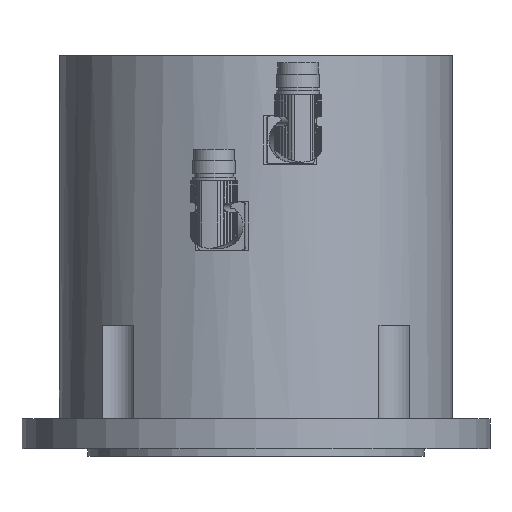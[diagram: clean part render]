
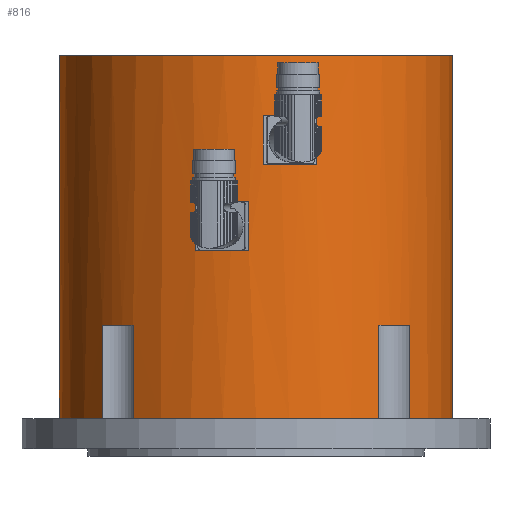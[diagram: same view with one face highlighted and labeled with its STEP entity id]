
A CAD part, left-side view. The second image highlights one B-rep face of the part: STEP entity #816.
In plain terms, the highlighted cylindrical face has radius 105 mm (diameter 210 mm), a full revolution.
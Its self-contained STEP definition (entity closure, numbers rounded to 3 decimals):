
#225=LINE('',#5573,#401);
#226=LINE('',#5575,#402);
#229=LINE('',#5586,#405);
#230=LINE('',#5588,#406);
#232=LINE('',#5594,#408);
#233=LINE('',#5599,#409);
#234=LINE('',#5603,#410);
#235=LINE('',#5607,#411);
#236=LINE('',#5611,#412);
#237=LINE('',#5615,#413);
#238=LINE('',#5619,#414);
#239=LINE('',#5623,#415);
#401=VECTOR('',#4512,1.);
#402=VECTOR('',#4513,1.);
#405=VECTOR('',#4526,1.);
#406=VECTOR('',#4527,1.);
#408=VECTOR('',#4535,1.);
#409=VECTOR('',#4538,1.);
#410=VECTOR('',#4541,1.);
#411=VECTOR('',#4544,1.);
#412=VECTOR('',#4547,1.);
#413=VECTOR('',#4550,1.);
#414=VECTOR('',#4553,1.);
#415=VECTOR('',#4556,1.);
#617=CYLINDRICAL_SURFACE('',#3985,105.);
#816=ADVANCED_FACE('',(#1106,#1107,#1108,#1109),#617,.T.);
#1106=FACE_BOUND('',#1421,.T.);
#1107=FACE_BOUND('',#1422,.T.);
#1108=FACE_BOUND('',#1423,.T.);
#1109=FACE_BOUND('',#1424,.T.);
#1421=EDGE_LOOP('',(#1720,#1721,#1722,#1723,#1724,#1725,#1726,#1727,#1728,
#1729,#1730,#1731,#1732,#1733,#1734,#1735));
#1422=EDGE_LOOP('',(#1736,#1737,#1738,#1739));
#1423=EDGE_LOOP('',(#1740,#1741,#1742,#1743));
#1424=EDGE_LOOP('',(#1744));
#1720=ORIENTED_EDGE('',*,*,#3165,.F.);
#1721=ORIENTED_EDGE('',*,*,#3166,.F.);
#1722=ORIENTED_EDGE('',*,*,#3167,.F.);
#1723=ORIENTED_EDGE('',*,*,#3168,.F.);
#1724=ORIENTED_EDGE('',*,*,#3169,.F.);
#1725=ORIENTED_EDGE('',*,*,#3170,.F.);
#1726=ORIENTED_EDGE('',*,*,#3171,.F.);
#1727=ORIENTED_EDGE('',*,*,#3172,.F.);
#1728=ORIENTED_EDGE('',*,*,#3173,.F.);
#1729=ORIENTED_EDGE('',*,*,#3174,.F.);
#1730=ORIENTED_EDGE('',*,*,#3175,.F.);
#1731=ORIENTED_EDGE('',*,*,#3176,.F.);
#1732=ORIENTED_EDGE('',*,*,#3177,.F.);
#1733=ORIENTED_EDGE('',*,*,#3178,.F.);
#1734=ORIENTED_EDGE('',*,*,#3179,.F.);
#1735=ORIENTED_EDGE('',*,*,#3180,.F.);
#1736=ORIENTED_EDGE('',*,*,#3164,.F.);
#1737=ORIENTED_EDGE('',*,*,#3162,.F.);
#1738=ORIENTED_EDGE('',*,*,#3160,.F.);
#1739=ORIENTED_EDGE('',*,*,#3161,.F.);
#1740=ORIENTED_EDGE('',*,*,#3158,.F.);
#1741=ORIENTED_EDGE('',*,*,#3156,.F.);
#1742=ORIENTED_EDGE('',*,*,#3154,.F.);
#1743=ORIENTED_EDGE('',*,*,#3155,.F.);
#1744=ORIENTED_EDGE('',*,*,#3152,.T.);
#2769=VERTEX_POINT('',#5566);
#2770=VERTEX_POINT('',#5569);
#2771=VERTEX_POINT('',#5570);
#2772=VERTEX_POINT('',#5574);
#2773=VERTEX_POINT('',#5576);
#2774=VERTEX_POINT('',#5582);
#2775=VERTEX_POINT('',#5583);
#2776=VERTEX_POINT('',#5587);
#2777=VERTEX_POINT('',#5589);
#2778=VERTEX_POINT('',#5595);
#2779=VERTEX_POINT('',#5596);
#2780=VERTEX_POINT('',#5598);
#2781=VERTEX_POINT('',#5600);
#2782=VERTEX_POINT('',#5602);
#2783=VERTEX_POINT('',#5604);
#2784=VERTEX_POINT('',#5606);
#2785=VERTEX_POINT('',#5608);
#2786=VERTEX_POINT('',#5610);
#2787=VERTEX_POINT('',#5612);
#2788=VERTEX_POINT('',#5614);
#2789=VERTEX_POINT('',#5616);
#2790=VERTEX_POINT('',#5618);
#2791=VERTEX_POINT('',#5620);
#2792=VERTEX_POINT('',#5622);
#2793=VERTEX_POINT('',#5624);
#3152=EDGE_CURVE('',#2769,#2769,#3698,.T.);
#3154=EDGE_CURVE('',#2770,#2771,#3699,.T.);
#3155=EDGE_CURVE('',#2772,#2770,#225,.T.);
#3156=EDGE_CURVE('',#2771,#2773,#226,.T.);
#3158=EDGE_CURVE('',#2773,#2772,#3700,.T.);
#3160=EDGE_CURVE('',#2774,#2775,#3701,.T.);
#3161=EDGE_CURVE('',#2776,#2774,#229,.T.);
#3162=EDGE_CURVE('',#2775,#2777,#230,.T.);
#3164=EDGE_CURVE('',#2777,#2776,#3702,.T.);
#3165=EDGE_CURVE('',#2778,#2779,#232,.T.);
#3166=EDGE_CURVE('',#2780,#2778,#3703,.T.);
#3167=EDGE_CURVE('',#2781,#2780,#233,.T.);
#3168=EDGE_CURVE('',#2782,#2781,#3704,.T.);
#3169=EDGE_CURVE('',#2783,#2782,#234,.T.);
#3170=EDGE_CURVE('',#2784,#2783,#3705,.T.);
#3171=EDGE_CURVE('',#2785,#2784,#235,.T.);
#3172=EDGE_CURVE('',#2786,#2785,#3706,.T.);
#3173=EDGE_CURVE('',#2787,#2786,#236,.T.);
#3174=EDGE_CURVE('',#2788,#2787,#3707,.T.);
#3175=EDGE_CURVE('',#2789,#2788,#237,.T.);
#3176=EDGE_CURVE('',#2790,#2789,#3708,.T.);
#3177=EDGE_CURVE('',#2791,#2790,#238,.T.);
#3178=EDGE_CURVE('',#2792,#2791,#3709,.T.);
#3179=EDGE_CURVE('',#2793,#2792,#239,.T.);
#3180=EDGE_CURVE('',#2779,#2793,#3710,.T.);
#3698=CIRCLE('',#3965,105.);
#3699=CIRCLE('',#3967,105.);
#3700=CIRCLE('',#3970,105.);
#3701=CIRCLE('',#3972,105.);
#3702=CIRCLE('',#3975,105.);
#3703=CIRCLE('',#3977,105.);
#3704=CIRCLE('',#3978,105.);
#3705=CIRCLE('',#3979,105.);
#3706=CIRCLE('',#3980,105.);
#3707=CIRCLE('',#3981,105.);
#3708=CIRCLE('',#3982,105.);
#3709=CIRCLE('',#3983,105.);
#3710=CIRCLE('',#3984,105.);
#3965=AXIS2_PLACEMENT_3D('',#5565,#4503,#4504);
#3967=AXIS2_PLACEMENT_3D('',#5571,#4508,#4509);
#3970=AXIS2_PLACEMENT_3D('',#5579,#4517,#4518);
#3972=AXIS2_PLACEMENT_3D('',#5584,#4522,#4523);
#3975=AXIS2_PLACEMENT_3D('',#5592,#4531,#4532);
#3977=AXIS2_PLACEMENT_3D('',#5597,#4536,#4537);
#3978=AXIS2_PLACEMENT_3D('',#5601,#4539,#4540);
#3979=AXIS2_PLACEMENT_3D('',#5605,#4542,#4543);
#3980=AXIS2_PLACEMENT_3D('',#5609,#4545,#4546);
#3981=AXIS2_PLACEMENT_3D('',#5613,#4548,#4549);
#3982=AXIS2_PLACEMENT_3D('',#5617,#4551,#4552);
#3983=AXIS2_PLACEMENT_3D('',#5621,#4554,#4555);
#3984=AXIS2_PLACEMENT_3D('',#5625,#4557,#4558);
#3985=AXIS2_PLACEMENT_3D('',#5626,#4559,#4560);
#4503=DIRECTION('',(0.,0.,-1.));
#4504=DIRECTION('',(-1.,0.,0.));
#4508=DIRECTION('',(0.,0.,1.));
#4509=DIRECTION('',(-1.,0.,0.));
#4512=DIRECTION('',(0.,0.,-1.));
#4513=DIRECTION('',(0.,0.,1.));
#4517=DIRECTION('',(0.,0.,-1.));
#4518=DIRECTION('',(1.,0.,0.));
#4522=DIRECTION('',(0.,0.,1.));
#4523=DIRECTION('',(-1.,0.,0.));
#4526=DIRECTION('',(0.,0.,-1.));
#4527=DIRECTION('',(0.,0.,1.));
#4531=DIRECTION('',(0.,0.,-1.));
#4532=DIRECTION('',(1.,0.,0.));
#4535=DIRECTION('',(0.,0.,1.));
#4536=DIRECTION('',(0.,0.,-1.));
#4537=DIRECTION('',(1.,0.,0.));
#4538=DIRECTION('',(0.,0.,-1.));
#4539=DIRECTION('',(0.,0.,-1.));
#4540=DIRECTION('',(1.,0.,0.));
#4541=DIRECTION('',(0.,0.,1.));
#4542=DIRECTION('',(0.,0.,-1.));
#4543=DIRECTION('',(1.,0.,0.));
#4544=DIRECTION('',(0.,0.,-1.));
#4545=DIRECTION('',(0.,0.,-1.));
#4546=DIRECTION('',(1.,0.,0.));
#4547=DIRECTION('',(0.,0.,1.));
#4548=DIRECTION('',(0.,0.,-1.));
#4549=DIRECTION('',(1.,0.,0.));
#4550=DIRECTION('',(0.,0.,-1.));
#4551=DIRECTION('',(0.,0.,-1.));
#4552=DIRECTION('',(1.,0.,0.));
#4553=DIRECTION('',(0.,0.,1.));
#4554=DIRECTION('',(0.,0.,-1.));
#4555=DIRECTION('',(1.,0.,0.));
#4556=DIRECTION('',(0.,0.,-1.));
#4557=DIRECTION('',(0.,0.,-1.));
#4558=DIRECTION('',(1.,0.,0.));
#4559=DIRECTION('',(0.,0.,1.));
#4560=DIRECTION('',(1.,0.,0.));
#5565=CARTESIAN_POINT('',(0.,0.,194.));
#5566=CARTESIAN_POINT('',(-105.,0.,194.));
#5569=CARTESIAN_POINT('',(-99.91,32.297,90.));
#5570=CARTESIAN_POINT('',(-104.93,3.822,90.));
#5571=CARTESIAN_POINT('',(0.,0.,90.));
#5573=CARTESIAN_POINT('',(-99.91,32.297,0.));
#5574=CARTESIAN_POINT('',(-99.91,32.297,116.));
#5575=CARTESIAN_POINT('',(-104.93,3.822,0.));
#5576=CARTESIAN_POINT('',(-104.93,3.822,116.));
#5579=CARTESIAN_POINT('',(0.,0.,116.));
#5582=CARTESIAN_POINT('',(-104.93,-3.822,136.));
#5583=CARTESIAN_POINT('',(-99.91,-32.297,136.));
#5584=CARTESIAN_POINT('',(0.,0.,136.));
#5586=CARTESIAN_POINT('',(-104.93,-3.822,0.));
#5587=CARTESIAN_POINT('',(-104.93,-3.822,162.));
#5588=CARTESIAN_POINT('',(-99.91,-32.297,0.));
#5589=CARTESIAN_POINT('',(-99.91,-32.297,162.));
#5592=CARTESIAN_POINT('',(0.,0.,162.));
#5594=CARTESIAN_POINT('',(-65.604,-81.983,25.));
#5595=CARTESIAN_POINT('',(-65.604,-81.983,0.));
#5596=CARTESIAN_POINT('',(-65.604,-81.983,50.));
#5597=CARTESIAN_POINT('',(0.,0.,0.));
#5598=CARTESIAN_POINT('',(65.604,-81.983,0.));
#5599=CARTESIAN_POINT('',(65.604,-81.983,25.));
#5600=CARTESIAN_POINT('',(65.604,-81.983,50.));
#5601=CARTESIAN_POINT('',(0.,0.,50.));
#5602=CARTESIAN_POINT('',(81.983,-65.604,50.));
#5603=CARTESIAN_POINT('',(81.983,-65.604,25.));
#5604=CARTESIAN_POINT('',(81.983,-65.604,0.));
#5605=CARTESIAN_POINT('',(0.,0.,0.));
#5606=CARTESIAN_POINT('',(81.983,65.604,0.));
#5607=CARTESIAN_POINT('',(81.983,65.604,25.));
#5608=CARTESIAN_POINT('',(81.983,65.604,50.));
#5609=CARTESIAN_POINT('',(0.,0.,50.));
#5610=CARTESIAN_POINT('',(65.604,81.983,50.));
#5611=CARTESIAN_POINT('',(65.604,81.983,25.));
#5612=CARTESIAN_POINT('',(65.604,81.983,0.));
#5613=CARTESIAN_POINT('',(0.,0.,0.));
#5614=CARTESIAN_POINT('',(-65.604,81.983,0.));
#5615=CARTESIAN_POINT('',(-65.604,81.983,25.));
#5616=CARTESIAN_POINT('',(-65.604,81.983,50.));
#5617=CARTESIAN_POINT('',(0.,0.,50.));
#5618=CARTESIAN_POINT('',(-81.983,65.604,50.));
#5619=CARTESIAN_POINT('',(-81.983,65.604,25.));
#5620=CARTESIAN_POINT('',(-81.983,65.604,0.));
#5621=CARTESIAN_POINT('',(0.,0.,0.));
#5622=CARTESIAN_POINT('',(-81.983,-65.604,0.));
#5623=CARTESIAN_POINT('',(-81.983,-65.604,25.));
#5624=CARTESIAN_POINT('',(-81.983,-65.604,50.));
#5625=CARTESIAN_POINT('',(0.,0.,50.));
#5626=CARTESIAN_POINT('',(0.,0.,0.));
